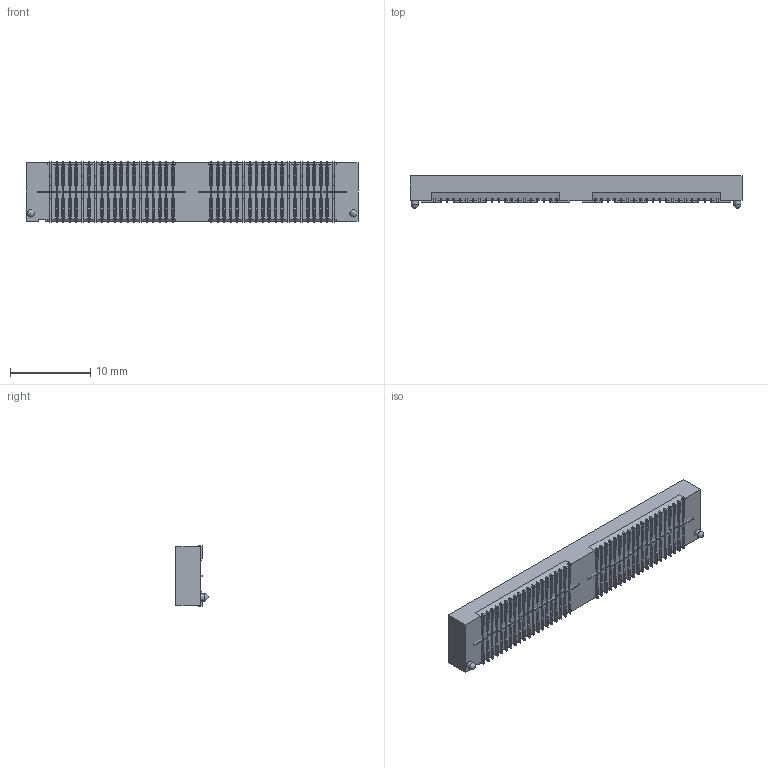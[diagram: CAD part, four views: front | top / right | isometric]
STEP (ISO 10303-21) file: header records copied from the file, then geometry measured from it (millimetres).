
FILE_DESCRIPTION(/* description */ ('STEP AP214'),/* implementation_level */ '2;1');
FILE_NAME(/* name */ 'QSE-040-01-F-D-A-TR',/* time_stamp */ '2024-09-05T22:31:56+02:00',/* author */ ('License CC BY-ND 4.0'),/* organization */ ('CADENAS'),/* preprocessor_version */ 'ST-DEVELOPER v19.3',/* originating_system */ 'PARTsolutions',/* authorisation */ ' ');
FILE_SCHEMA (('AUTOMOTIVE_DESIGN {1 0 10303 214 3 1 1}'));
Products named in the file (6): QSE-040-01-F-D-A-TR; QSE-040-01-F-D-A-TR-S_terminal; QSE-T-1G2-01-040; QSE-C-126-21-040-D-S-F; QSE-C-126-21-040-D-S2; QSE-C-126-21-040-D-S3
Assembly tree (9 placements, depth 2):
  QSE-040-01-F-D-A-TR
    QSE-040-01-F-D-A-TR-S_terminal
    QSE-T-1G2-01-040  x2
    QSE-C-126-21-040-D-S-F  x2
    QSE-C-126-21-040-D-S2  x2
    QSE-C-126-21-040-D-S3  x2
Bounding box: 41.27 x 4.01 x 7.49 mm (x, y, z)
Volume: 538.9 mm3; surface area: 2836 mm2
Topology: 9 solids, 9 shells, 3053 faces, 9320 edges, 6214 vertices
Faces by surface type: plane 2465, cylinder 586, sphere 2
Full cylindrical faces by diameter (mm): 0.889 x2
Entity records: 66987 total; most frequent: ORIENTED_EDGE 12032, CARTESIAN_POINT 12023, DIRECTION 10746, EDGE_CURVE 6016, LINE 5276, VECTOR 5276, VERTEX_POINT 4012, AXIS2_PLACEMENT_3D 2735
